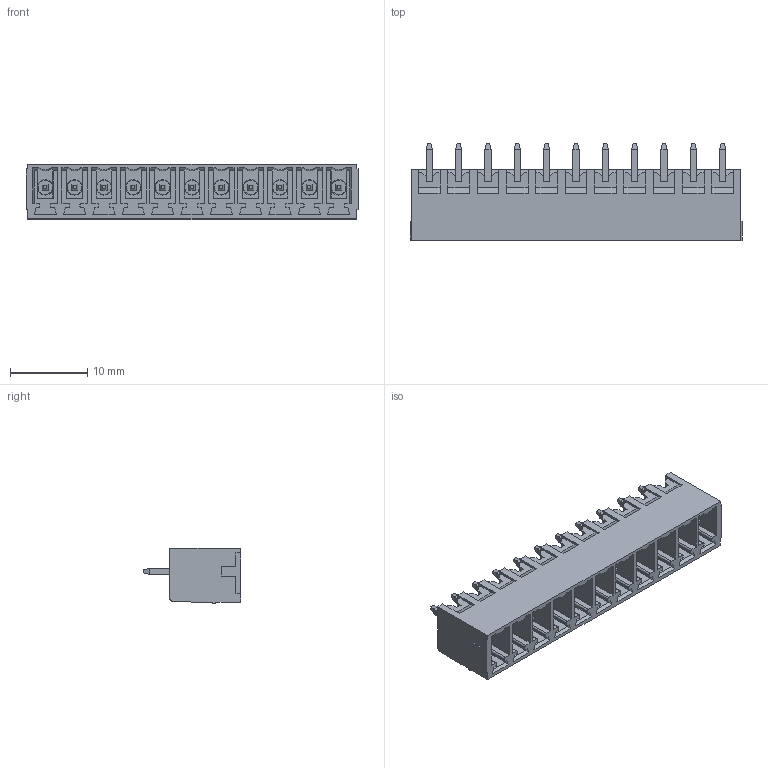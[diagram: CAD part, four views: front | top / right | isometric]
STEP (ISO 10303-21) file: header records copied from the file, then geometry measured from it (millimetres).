
FILE_DESCRIPTION(('FreeCAD Model'),'2;1');
FILE_NAME('Open CASCADE Shape Model','2023-05-24T16:02:11',('Author'),( ''),'Open CASCADE STEP processor 7.6','FreeCAD','Unknown');
FILE_SCHEMA(('AUTOMOTIVE_DESIGN { 1 0 10303 214 1 1 1 1 }'));
Products named in the file (1): BR7MC2-11
Bounding box: 43.1 x 12.6 x 7.2 mm (x, y, z)
Volume: 1298 mm3; surface area: 3919.8 mm2
Topology: 1 solids, 1 shells, 896 faces, 2385 edges, 1513 vertices
Faces by surface type: plane 785, cylinder 56, cone 33, sphere 22
Entity records: 59240 total; most frequent: CARTESIAN_POINT 11313, DIRECTION 8942, LINE 6601, VECTOR 6601, ORIENTED_EDGE 4726, PCURVE 4726, DEFINITIONAL_REPRESENTATION 4726, EDGE_CURVE 2363
